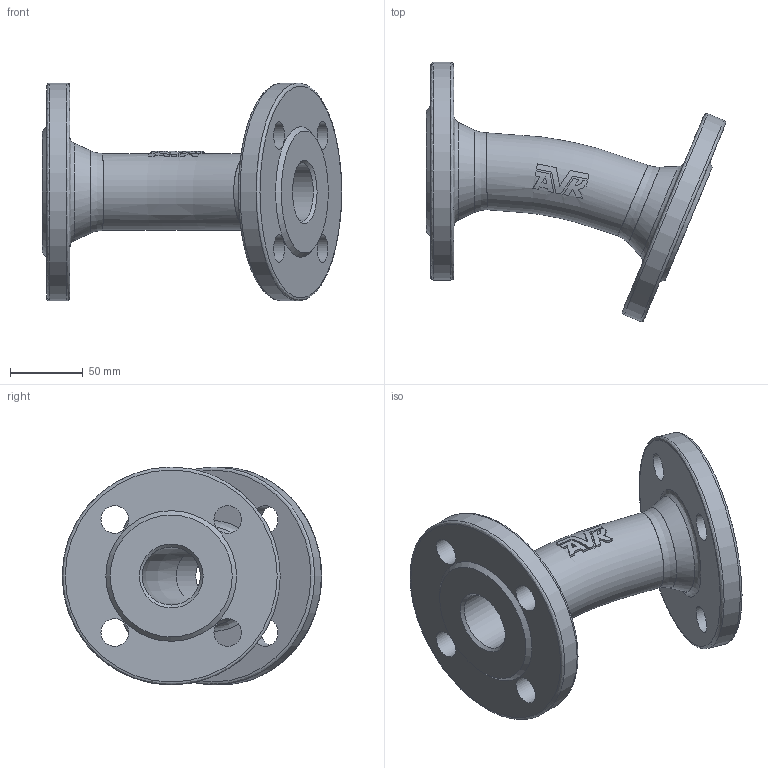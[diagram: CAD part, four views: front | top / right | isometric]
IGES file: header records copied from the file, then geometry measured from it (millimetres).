
Start section: SolidWorks IGES file using analytic representation for surfaces
Global section: file name: \\avksan2\techshare\PBM outline export from Enovia\O_712_0210_DN40_1X_REV01.igs; native system: SolidWorks 2022; preprocessor: SolidWorks 2022; author: pbm; date: 240815.135654; units: millimetre
Bounding box: 206.21 x 178.61 x 150 mm (x, y, z)
Surface area: 127355.5 mm2 (no closed solid volume)
Topology: 0 solids, 0 shells, 75 faces, 345 edges, 317 vertices
Faces by surface type: bspline 43, revolution 32
